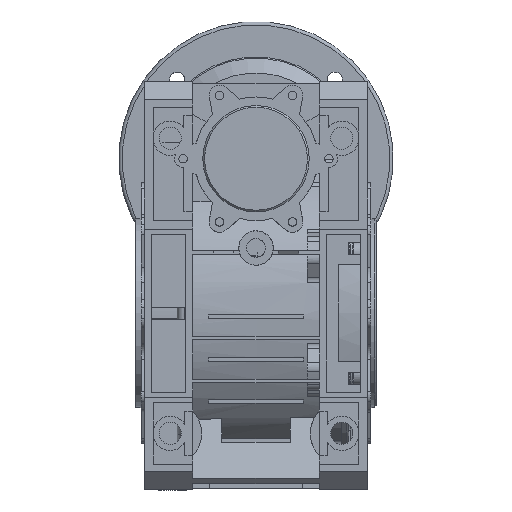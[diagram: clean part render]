
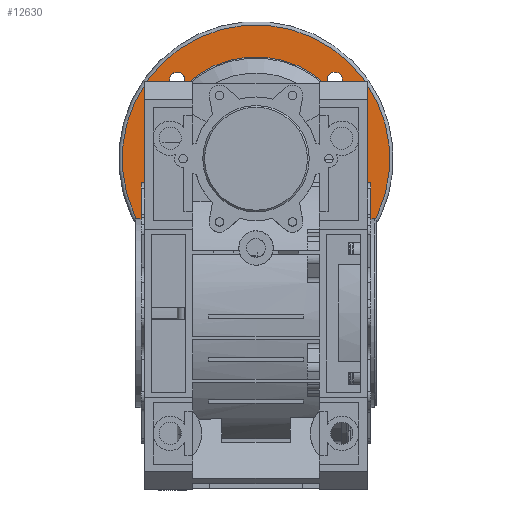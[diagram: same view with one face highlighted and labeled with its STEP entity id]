
A CAD part, front view. The second image highlights one B-rep face of the part: STEP entity #12630.
In plain terms, the highlighted planar face has unit normal (0, -1, 0).
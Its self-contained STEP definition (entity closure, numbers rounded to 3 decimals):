
#12544=CARTESIAN_POINT('',(55.154,114.,34.846));
#12545=VERTEX_POINT('',#12544);
#12546=CARTESIAN_POINT('',(0.0,114.,90.0));
#12547=DIRECTION('',(0.0,1.0,0.0));
#12548=DIRECTION('',(-0.707,0.0,0.707));
#12549=AXIS2_PLACEMENT_3D('',#12546,#12547,#12548);
#12550=CIRCLE('',#12549,78.0);
#12551=EDGE_CURVE('',#12545,#12545,#12550,.T.);
#12567=CARTESIAN_POINT('',(49.144,114.,40.856));
#12568=DIRECTION('',(0.0,-1.0,0.0));
#12569=DIRECTION('',(0.707,0.0,0.707));
#12570=AXIS2_PLACEMENT_3D('',#12567,#12568,#12569);
#12571=PLANE('',#12570);
#12572=ORIENTED_EDGE('',*,*,#12551,.F.);
#12573=EDGE_LOOP('',(#12572));
#12574=FACE_OUTER_BOUND('',#12573,.T.);
#12575=CARTESIAN_POINT('',(42.012,114.,47.988));
#12576=VERTEX_POINT('',#12575);
#12577=CARTESIAN_POINT('',(0.0,114.,90.0));
#12578=DIRECTION('',(0.0,-1.0,0.0));
#12579=DIRECTION('',(-0.707,0.0,0.707));
#12580=AXIS2_PLACEMENT_3D('',#12577,#12578,#12579);
#12581=CIRCLE('',#12580,59.414);
#12582=EDGE_CURVE('',#12576,#12576,#12581,.T.);
#12583=ORIENTED_EDGE('',*,*,#12582,.F.);
#12584=EDGE_LOOP('',(#12583));
#12585=FACE_BOUND('',#12584,.T.);
#12586=CARTESIAN_POINT('',(49.144,114.,47.22));
#12587=VERTEX_POINT('',#12586);
#12588=CARTESIAN_POINT('',(45.962,114.,44.038));
#12589=DIRECTION('',(0.0,1.0,0.0));
#12590=DIRECTION('',(-0.707,0.0,-0.707));
#12591=AXIS2_PLACEMENT_3D('',#12588,#12589,#12590);
#12592=CIRCLE('',#12591,4.5);
#12593=EDGE_CURVE('',#12587,#12587,#12592,.T.);
#12594=ORIENTED_EDGE('',*,*,#12593,.T.);
#12595=EDGE_LOOP('',(#12594));
#12596=FACE_BOUND('',#12595,.T.);
#12597=CARTESIAN_POINT('',(42.78,114.,139.144));
#12598=VERTEX_POINT('',#12597);
#12599=CARTESIAN_POINT('',(45.962,114.,135.962));
#12600=DIRECTION('',(0.0,1.0,0.0));
#12601=DIRECTION('',(0.707,0.0,-0.707));
#12602=AXIS2_PLACEMENT_3D('',#12599,#12600,#12601);
#12603=CIRCLE('',#12602,4.5);
#12604=EDGE_CURVE('',#12598,#12598,#12603,.T.);
#12605=ORIENTED_EDGE('',*,*,#12604,.T.);
#12606=EDGE_LOOP('',(#12605));
#12607=FACE_BOUND('',#12606,.T.);
#12608=CARTESIAN_POINT('',(-42.78,114.,40.856));
#12609=VERTEX_POINT('',#12608);
#12610=CARTESIAN_POINT('',(-45.962,114.,44.038));
#12611=DIRECTION('',(0.0,1.0,0.0));
#12612=DIRECTION('',(-0.707,0.0,0.707));
#12613=AXIS2_PLACEMENT_3D('',#12610,#12611,#12612);
#12614=CIRCLE('',#12613,4.5);
#12615=EDGE_CURVE('',#12609,#12609,#12614,.T.);
#12616=ORIENTED_EDGE('',*,*,#12615,.T.);
#12617=EDGE_LOOP('',(#12616));
#12618=FACE_BOUND('',#12617,.T.);
#12619=CARTESIAN_POINT('',(-49.144,114.,132.78));
#12620=VERTEX_POINT('',#12619);
#12621=CARTESIAN_POINT('',(-45.962,114.,135.962));
#12622=DIRECTION('',(0.0,1.0,0.0));
#12623=DIRECTION('',(0.707,0.0,0.707));
#12624=AXIS2_PLACEMENT_3D('',#12621,#12622,#12623);
#12625=CIRCLE('',#12624,4.5);
#12626=EDGE_CURVE('',#12620,#12620,#12625,.T.);
#12627=ORIENTED_EDGE('',*,*,#12626,.T.);
#12628=EDGE_LOOP('',(#12627));
#12629=FACE_BOUND('',#12628,.T.);
#12630=ADVANCED_FACE('',(#12574,#12585,#12596,#12607,#12618,#12629),#12571,.T.);
